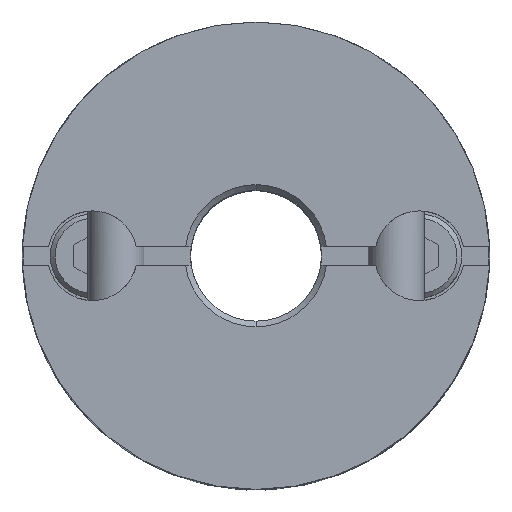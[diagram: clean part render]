
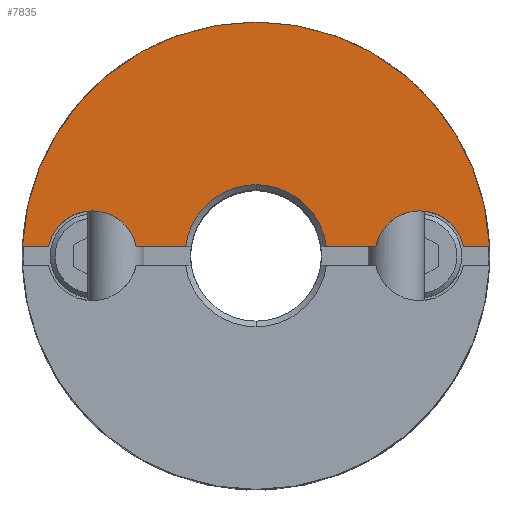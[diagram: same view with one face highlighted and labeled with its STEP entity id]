
A CAD part, top view. The second image highlights one B-rep face of the part: STEP entity #7835.
In plain terms, the highlighted planar face has unit normal (0, 0, 1).
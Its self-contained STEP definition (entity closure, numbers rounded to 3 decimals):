
#809=CARTESIAN_POINT('',(0.,12.5,11.7));
#810=VERTEX_POINT('',#809);
#817=CARTESIAN_POINT('',(12.49,0.5,11.7));
#818=VERTEX_POINT('',#817);
#819=CARTESIAN_POINT('',(0.,0.0,11.7));
#820=DIRECTION('',(0.0,0.0,-1.0));
#821=DIRECTION('',(0.0,-1.0,0.0));
#822=AXIS2_PLACEMENT_3D('',#819,#820,#821);
#823=CIRCLE('',#822,12.5);
#824=EDGE_CURVE('',#810,#818,#823,.T.);
#1028=CARTESIAN_POINT('',(0.,3.8,11.7));
#1029=VERTEX_POINT('',#1028);
#1037=CARTESIAN_POINT('',(3.767,0.5,11.7));
#1038=VERTEX_POINT('',#1037);
#1052=CARTESIAN_POINT('',(0.,0.0,11.7));
#1053=DIRECTION('',(0.0,0.0,1.0));
#1054=DIRECTION('',(0.0,1.0,0.0));
#1055=AXIS2_PLACEMENT_3D('',#1052,#1053,#1054);
#1056=CIRCLE('',#1055,3.8);
#1057=EDGE_CURVE('',#1038,#1029,#1056,.T.);
#1428=CARTESIAN_POINT('',(8.75,2.4,11.7));
#1429=VERTEX_POINT('',#1428);
#1436=CARTESIAN_POINT('',(6.403,0.5,11.7));
#1437=VERTEX_POINT('',#1436);
#1438=CARTESIAN_POINT('',(8.75,0.,11.7));
#1439=DIRECTION('',(0.0,0.0,-1.0));
#1440=DIRECTION('',(0.0,-1.0,0.0));
#1441=AXIS2_PLACEMENT_3D('',#1438,#1439,#1440);
#1442=CIRCLE('',#1441,2.4);
#1443=EDGE_CURVE('',#1437,#1429,#1442,.T.);
#1503=CARTESIAN_POINT('',(11.097,0.5,11.7));
#1504=VERTEX_POINT('',#1503);
#1511=CARTESIAN_POINT('',(8.75,0.,11.7));
#1512=DIRECTION('',(0.0,0.0,-1.0));
#1513=DIRECTION('',(0.0,-1.0,0.0));
#1514=AXIS2_PLACEMENT_3D('',#1511,#1512,#1513);
#1515=CIRCLE('',#1514,2.4);
#1516=EDGE_CURVE('',#1429,#1504,#1515,.T.);
#1837=CARTESIAN_POINT('',(-8.75,2.4,11.7));
#1838=VERTEX_POINT('',#1837);
#1870=CARTESIAN_POINT('',(-6.403,0.5,11.7));
#1871=VERTEX_POINT('',#1870);
#1878=CARTESIAN_POINT('',(-8.75,0.,11.7));
#1879=DIRECTION('',(0.0,0.0,-1.0));
#1880=DIRECTION('',(0.0,-1.0,0.0));
#1881=AXIS2_PLACEMENT_3D('',#1878,#1879,#1880);
#1882=CIRCLE('',#1881,2.4);
#1883=EDGE_CURVE('',#1838,#1871,#1882,.T.);
#6343=CARTESIAN_POINT('',(-11.097,0.5,11.7));
#6344=VERTEX_POINT('',#6343);
#6345=CARTESIAN_POINT('',(-8.75,0.,11.7));
#6346=DIRECTION('',(0.0,0.0,-1.0));
#6347=DIRECTION('',(0.0,-1.0,0.0));
#6348=AXIS2_PLACEMENT_3D('',#6345,#6346,#6347);
#6349=CIRCLE('',#6348,2.4);
#6350=EDGE_CURVE('',#6344,#1838,#6349,.T.);
#6870=CARTESIAN_POINT('',(3.767,0.5,11.7));
#6871=DIRECTION('',(1.0,0.0,0.0));
#6872=VECTOR('',#6871,2.636);
#6873=LINE('',#6870,#6872);
#6874=EDGE_CURVE('',#1038,#1437,#6873,.T.);
#6938=CARTESIAN_POINT('',(-3.767,0.5,11.7));
#6939=VERTEX_POINT('',#6938);
#6953=CARTESIAN_POINT('',(-6.403,0.5,11.7));
#6954=DIRECTION('',(1.0,0.0,0.0));
#6955=VECTOR('',#6954,2.636);
#6956=LINE('',#6953,#6955);
#6957=EDGE_CURVE('',#1871,#6939,#6956,.T.);
#7613=CARTESIAN_POINT('',(-12.49,0.5,11.7));
#7614=VERTEX_POINT('',#7613);
#7615=CARTESIAN_POINT('',(-12.49,0.5,11.7));
#7616=DIRECTION('',(1.0,0.0,0.0));
#7617=VECTOR('',#7616,1.393);
#7618=LINE('',#7615,#7617);
#7619=EDGE_CURVE('',#7614,#6344,#7618,.T.);
#7719=CARTESIAN_POINT('',(11.097,0.5,11.7));
#7720=DIRECTION('',(1.0,0.0,0.0));
#7721=VECTOR('',#7720,1.393);
#7722=LINE('',#7719,#7721);
#7723=EDGE_CURVE('',#1504,#818,#7722,.T.);
#7804=CARTESIAN_POINT('',(0.,-1.136,11.7));
#7805=DIRECTION('',(0.0,0.0,1.0));
#7806=DIRECTION('',(0.0,-1.0,0.0));
#7807=AXIS2_PLACEMENT_3D('',#7804,#7805,#7806);
#7808=PLANE('',#7807);
#7809=ORIENTED_EDGE('',*,*,#6350,.T.);
#7810=ORIENTED_EDGE('',*,*,#1883,.T.);
#7811=ORIENTED_EDGE('',*,*,#6957,.T.);
#7812=CARTESIAN_POINT('',(0.,0.0,11.7));
#7813=DIRECTION('',(0.0,0.0,1.0));
#7814=DIRECTION('',(0.0,1.0,0.0));
#7815=AXIS2_PLACEMENT_3D('',#7812,#7813,#7814);
#7816=CIRCLE('',#7815,3.8);
#7817=EDGE_CURVE('',#1029,#6939,#7816,.T.);
#7818=ORIENTED_EDGE('',*,*,#7817,.F.);
#7819=ORIENTED_EDGE('',*,*,#1057,.F.);
#7820=ORIENTED_EDGE('',*,*,#6874,.T.);
#7821=ORIENTED_EDGE('',*,*,#1443,.T.);
#7822=ORIENTED_EDGE('',*,*,#1516,.T.);
#7823=ORIENTED_EDGE('',*,*,#7723,.T.);
#7824=ORIENTED_EDGE('',*,*,#824,.F.);
#7825=CARTESIAN_POINT('',(0.,0.0,11.7));
#7826=DIRECTION('',(0.0,0.0,-1.0));
#7827=DIRECTION('',(0.0,-1.0,0.0));
#7828=AXIS2_PLACEMENT_3D('',#7825,#7826,#7827);
#7829=CIRCLE('',#7828,12.5);
#7830=EDGE_CURVE('',#7614,#810,#7829,.T.);
#7831=ORIENTED_EDGE('',*,*,#7830,.F.);
#7832=ORIENTED_EDGE('',*,*,#7619,.T.);
#7833=EDGE_LOOP('',(#7809,#7810,#7811,#7818,#7819,#7820,#7821,#7822,#7823,#7824,#7831,#7832));
#7834=FACE_OUTER_BOUND('',#7833,.T.);
#7835=ADVANCED_FACE('',(#7834),#7808,.T.);
